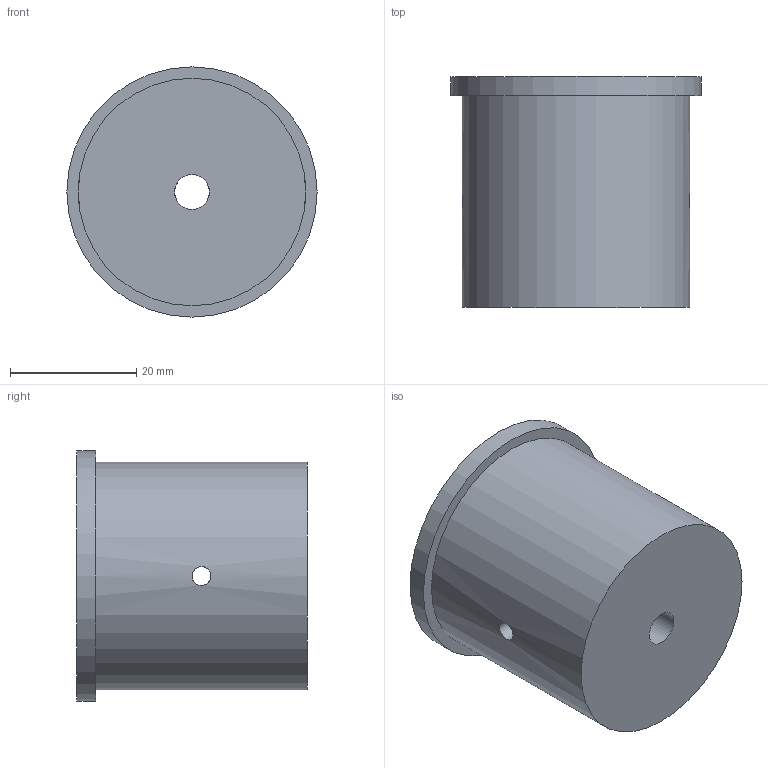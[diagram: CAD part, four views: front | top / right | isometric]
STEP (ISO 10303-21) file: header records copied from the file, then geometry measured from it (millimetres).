
FILE_DESCRIPTION(('Open CASCADE Model'),'2;1');
FILE_NAME('Open CASCADE Shape Model','2026-10-17T23:18:52',('Author'),( 'Open CASCADE'),'Open CASCADE STEP processor 7.9','Open CASCADE 7.9' ,'Unknown');
FILE_SCHEMA(('AUTOMOTIVE_DESIGN { 1 0 10303 214 1 1 1 1 }'));
Length unit declared in the file: millimetre
Products named in the file (1): Open CASCADE STEP translator 7.9 5
Bounding box: 39.6 x 36.49 x 39.6 mm (x, y, z)
Volume: 19755.4 mm3; surface area: 12447.9 mm2
Topology: 1 solids, 1 shells, 16 faces, 38 edges, 24 vertices
Faces by surface type: cylinder 10, plane 6
Full cylindrical faces by diameter (mm): 3 x4, 5.5 x1, 9.2 x1, 13 x1, 30 x1, 36 x1, 39.6 x1
Entity records: 2432 total; most frequent: CARTESIAN_POINT 1691, DIRECTION 118, ORIENTED_EDGE 76, PCURVE 76, DEFINITIONAL_REPRESENTATION 76, LINE 54, VECTOR 54, EDGE_CURVE 38
